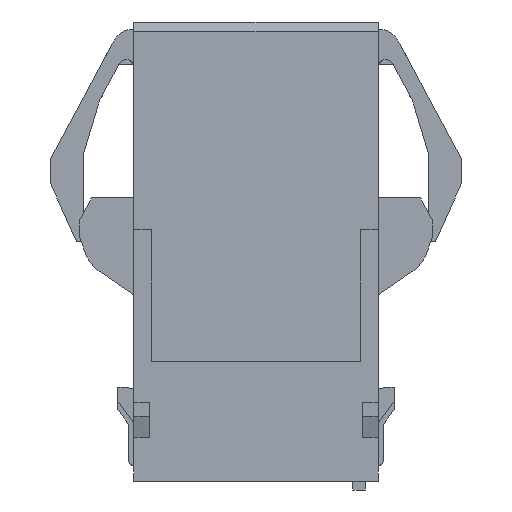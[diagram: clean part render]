
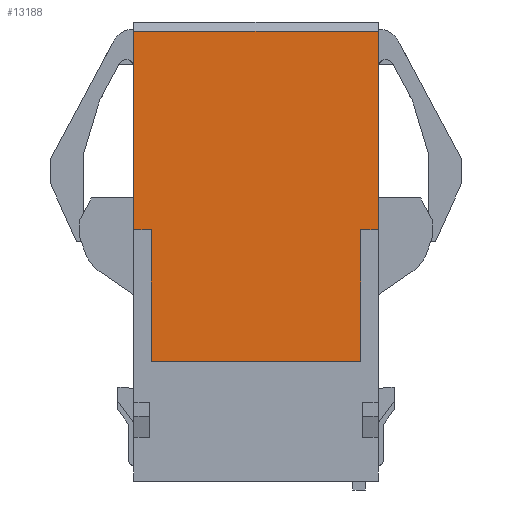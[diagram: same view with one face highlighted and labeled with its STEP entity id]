
A CAD part, front view. The second image highlights one B-rep face of the part: STEP entity #13188.
In plain terms, the highlighted planar face has unit normal (0, -1, 0).
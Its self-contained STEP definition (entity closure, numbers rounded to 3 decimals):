
#168=DIRECTION('',(0.,0.,-1.));
#169=VECTOR('',#168,11.281);
#170=CARTESIAN_POINT('',(-6.95,-7.55,-0.52));
#171=LINE('',#170,#169);
#790=DIRECTION('',(0.,0.,-1.));
#791=VECTOR('',#790,11.281);
#792=CARTESIAN_POINT('',(6.95,-7.55,-0.52));
#793=LINE('',#792,#791);
#4584=DIRECTION('',(0.,0.,-1.));
#4585=VECTOR('',#4584,7.5);
#4586=CARTESIAN_POINT('',(5.95,-7.55,-11.801));
#4587=LINE('',#4586,#4585);
#4588=DIRECTION('',(1.,0.,0.));
#4589=VECTOR('',#4588,13.9);
#4590=CARTESIAN_POINT('',(-6.95,-7.55,-0.52));
#4591=LINE('',#4590,#4589);
#4596=DIRECTION('',(1.,0.,0.));
#4597=VECTOR('',#4596,1.);
#4598=CARTESIAN_POINT('',(-6.95,-7.55,-11.801));
#4599=LINE('',#4598,#4597);
#4604=DIRECTION('',(1.,0.,0.));
#4605=VECTOR('',#4604,1.);
#4606=CARTESIAN_POINT('',(5.95,-7.55,-11.801));
#4607=LINE('',#4606,#4605);
#4608=DIRECTION('',(0.,0.,-1.));
#4609=VECTOR('',#4608,7.5);
#4610=CARTESIAN_POINT('',(-5.95,-7.55,-11.801));
#4611=LINE('',#4610,#4609);
#4616=DIRECTION('',(-1.,0.,0.));
#4617=VECTOR('',#4616,11.9);
#4618=CARTESIAN_POINT('',(5.95,-7.55,-19.301));
#4619=LINE('',#4618,#4617);
#5172=CARTESIAN_POINT('',(-6.95,-7.55,-11.801));
#5174=VERTEX_POINT('',#5172);
#5180=CARTESIAN_POINT('',(6.95,-7.55,-11.801));
#5182=VERTEX_POINT('',#5180);
#5208=CARTESIAN_POINT('',(-6.95,-7.55,-0.52));
#5209=VERTEX_POINT('',#5208);
#5214=CARTESIAN_POINT('',(6.95,-7.55,-0.52));
#5215=VERTEX_POINT('',#5214);
#5898=CARTESIAN_POINT('',(5.95,-7.55,-19.301));
#5899=CARTESIAN_POINT('',(-5.95,-7.55,-19.301));
#5900=VERTEX_POINT('',#5898);
#5901=VERTEX_POINT('',#5899);
#5902=CARTESIAN_POINT('',(-5.95,-7.55,-11.801));
#5904=VERTEX_POINT('',#5902);
#5906=CARTESIAN_POINT('',(5.95,-7.55,-11.801));
#5908=VERTEX_POINT('',#5906);
#13168=CARTESIAN_POINT('',(-6.95,-7.55,-0.52));
#13169=DIRECTION('',(0.,-1.,0.));
#13170=DIRECTION('',(0.,0.,-1.));
#13171=AXIS2_PLACEMENT_3D('',#13168,#13169,#13170);
#13172=PLANE('',#13171);
#13174=ORIENTED_EDGE('',*,*,#13173,.F.);
#13176=ORIENTED_EDGE('',*,*,#13175,.T.);
#13178=ORIENTED_EDGE('',*,*,#13177,.T.);
#13180=ORIENTED_EDGE('',*,*,#13179,.F.);
#13182=ORIENTED_EDGE('',*,*,#13181,.F.);
#13183=ORIENTED_EDGE('',*,*,#6859,.F.);
#13184=ORIENTED_EDGE('',*,*,#13163,.T.);
#13185=ORIENTED_EDGE('',*,*,#7531,.T.);
#13186=EDGE_LOOP('',(#13174,#13176,#13178,#13180,#13182,#13183,#13184,#13185));
#13187=FACE_OUTER_BOUND('',#13186,.F.);
#13188=ADVANCED_FACE('',(#13187),#13172,.T.);
#6859=EDGE_CURVE('',#5209,#5174,#171,.T.);
#7531=EDGE_CURVE('',#5215,#5182,#793,.T.);
#13163=EDGE_CURVE('',#5209,#5215,#4591,.T.);
#13173=EDGE_CURVE('',#5908,#5182,#4607,.T.);
#13175=EDGE_CURVE('',#5908,#5900,#4587,.T.);
#13177=EDGE_CURVE('',#5900,#5901,#4619,.T.);
#13179=EDGE_CURVE('',#5904,#5901,#4611,.T.);
#13181=EDGE_CURVE('',#5174,#5904,#4599,.T.);
